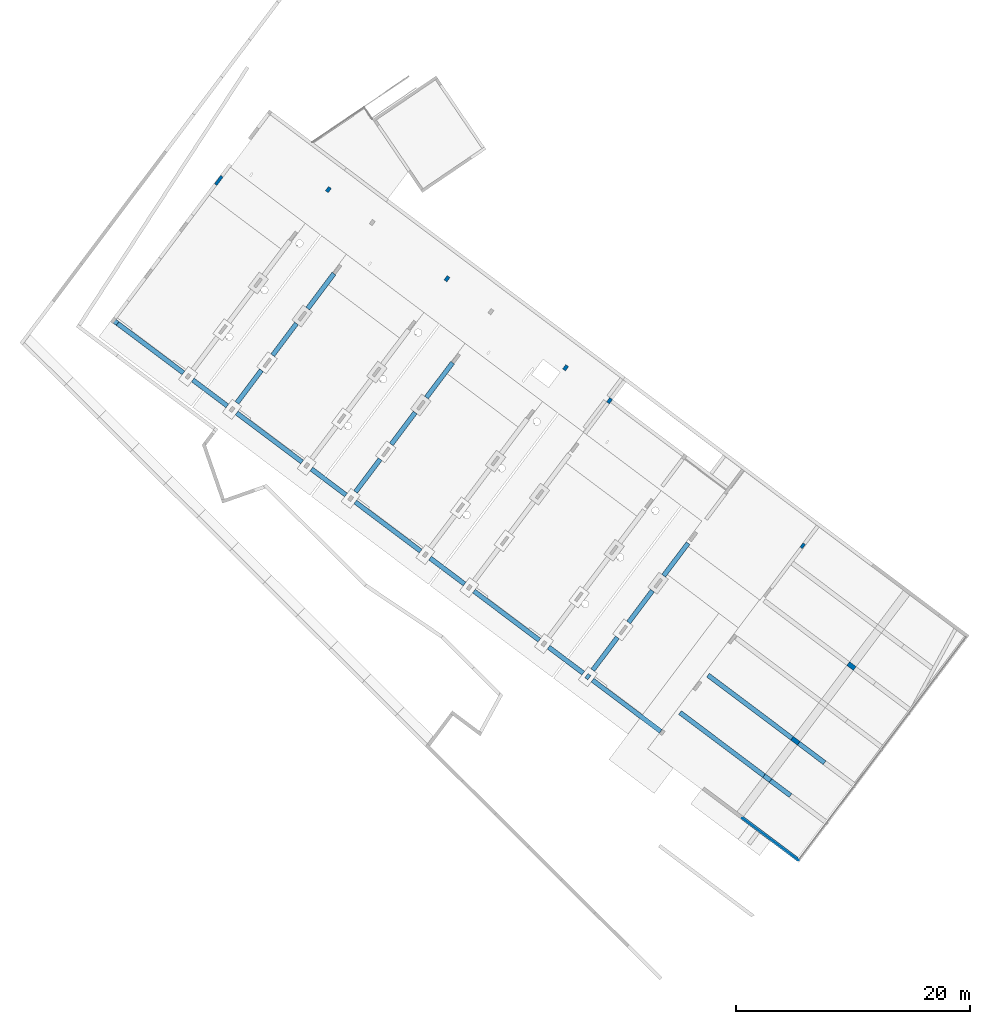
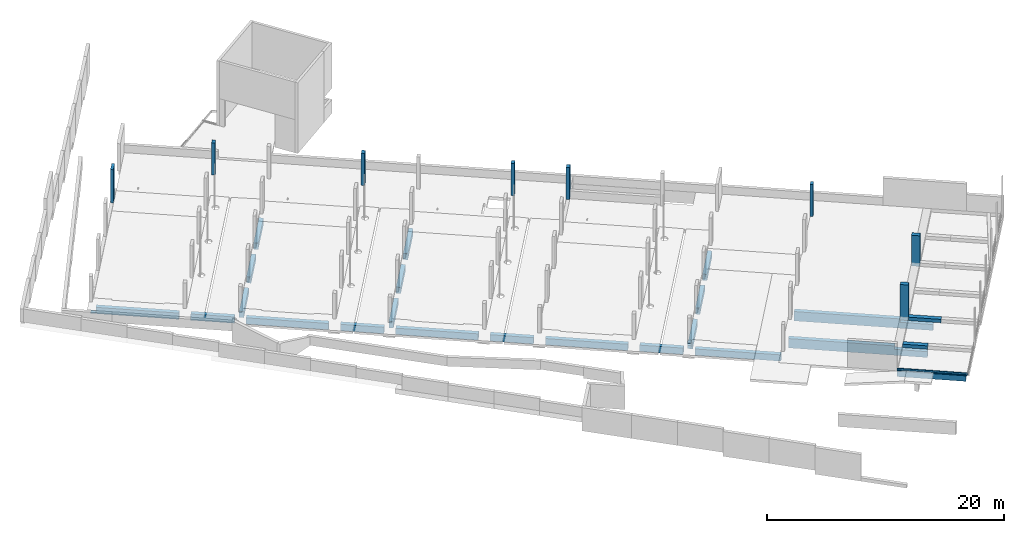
# One storey, part 17 of 24: 9 beams, 9 columns.
"""IFC2X3 building model written with IfcOpenShell, lengths in metres."""

import ifcopenshell
import ifcopenshell.guid

model = None  # the IFC model being written
_history = None  # IfcOwnerHistory: only IFC2X3 demands one
_inside = {}  # id of a spatial element -> (the spatial element, [elements in it])
_under = {}  # id of a project, library or spatial element -> (it, [spatial elements below it])
_declared = {}  # id of a project -> (the project, [libraries it declares])
_typed = {}  # id of a type object -> (the type object, [elements of that type])
_made_of = {}  # id of a material, layer set ... -> (it, [elements and type objects made of it])


def new_model(schema):
    """Start an empty IFC model of exactly this schema.

    Asked for "IFC4X3", IfcOpenShell would pick the latest addendum, in which some entities
    have other attributes; the version numbers below select the first issue.
    IFC2X3 requires an IfcOwnerHistory on every rooted entity: one is made here for all.
    """
    global model, _history
    if schema == "IFC4X3":
        model = ifcopenshell.file(schema_version=(4, 3, 0, 0))
    else:
        model = ifcopenshell.file(schema=schema)
    _inside.clear()
    _under.clear()
    _declared.clear()
    _typed.clear()
    _made_of.clear()
    _history = None
    if model.schema == "IFC2X3":
        org = make("IfcOrganization", Name="unknown")
        user = make(
            "IfcPersonAndOrganization",
            ThePerson=make("IfcPerson", FamilyName="unknown"),
            TheOrganization=org,
        )
        app = make(
            "IfcApplication",
            ApplicationDeveloper=org,
            Version="unknown",
            ApplicationFullName="unknown",
            ApplicationIdentifier="unknown",
        )
        _history = make(
            "IfcOwnerHistory",
            OwningUser=user,
            OwningApplication=app,
            ChangeAction="ADDED",
            CreationDate=0,
        )
    return model


def make(cls, **values):
    """One entity of the class cls with the attributes given. An attribute that is None is left unset."""
    return model.create_entity(
        cls, **{name: value for name, value in values.items() if value is not None}
    )


def entity(cls, *values):
    """Any entity or typed value of the class cls, its attributes in the order of the schema. None: left unset."""
    e = model.create_entity(cls)
    for i, value in enumerate(values):
        if value is not None:
            e[i] = value
    return e


def rooted(cls, **values):
    """An entity with a GlobalId (a new one), such as an element, a storey or a relation."""
    return make(cls, GlobalId=ifcopenshell.guid.new(), OwnerHistory=_history, **values)


def si_unit(unit_type, name, prefix=None):
    """IfcSIUnit, for example si_unit("LENGTHUNIT", "METRE", prefix="MILLI")."""
    return make("IfcSIUnit", UnitType=unit_type, Prefix=prefix, Name=name)


def converted_unit(unit_type, name, factor, base, dimensions=None, offset=None):
    """IfcConversionBasedUnit, such as the inch: factor (a typed value) times the base unit."""
    return make(
        "IfcConversionBasedUnit"
        if offset is None
        else "IfcConversionBasedUnitWithOffset",
        ConversionOffset=offset,
        Dimensions=None
        if dimensions is None
        else entity("IfcDimensionalExponents", *dimensions),
        UnitType=unit_type,
        Name=name,
        ConversionFactor=make(
            "IfcMeasureWithUnit", ValueComponent=factor, UnitComponent=base
        ),
    )


def derived_unit(unit_type, elements):
    """IfcDerivedUnit: a product of units, each with its exponent."""
    return make(
        "IfcDerivedUnit",
        Elements=[
            make("IfcDerivedUnitElement", Unit=unit, Exponent=power)
            for unit, power in elements
        ],
        UnitType=unit_type,
    )


def assignment(units):
    """IfcUnitAssignment: the units of a project."""
    return None if units is None else make("IfcUnitAssignment", Units=units)


def point(xyz):
    """IfcCartesianPoint."""
    return None if xyz is None else make("IfcCartesianPoint", Coordinates=xyz)


def direction(xyz):
    """IfcDirection."""
    return None if xyz is None else make("IfcDirection", DirectionRatios=xyz)


def frame(location, z_axis=None, x_axis=None):
    """IfcAxis2Placement3D, a coordinate frame: its origin and axes. An axis left out is left unset."""
    return make(
        "IfcAxis2Placement3D",
        Location=point(location),
        Axis=direction(z_axis),
        RefDirection=direction(x_axis),
    )


def frame_2d(location, x_axis=None):
    """IfcAxis2Placement2D, a coordinate frame in the plane: its origin and x axis."""
    return make(
        "IfcAxis2Placement2D", Location=point(location), RefDirection=direction(x_axis)
    )


def origin():
    """The frame at (0, 0, 0) with its axes left unset."""
    return frame((0.0, 0.0, 0.0))


def origin_2d_with_axis():
    """The frame at (0, 0) in the plane with the x axis (1, 0) written out."""
    return frame_2d((0.0, 0.0), x_axis=(1.0, 0.0))


def place(relative_to, where):
    """IfcLocalPlacement: puts the frame where relative to a parent placement (None: the world)."""
    return make(
        "IfcLocalPlacement", PlacementRelTo=relative_to, RelativePlacement=where
    )


def context(
    kind, dimensions, precision=None, world=None, true_north=None, identifier=None
):
    """IfcGeometricRepresentationContext, for example the 3D "Model" context."""
    return make(
        "IfcGeometricRepresentationContext",
        ContextIdentifier=identifier,
        ContextType=kind,
        CoordinateSpaceDimension=dimensions,
        Precision=precision,
        WorldCoordinateSystem=world,
        TrueNorth=true_north,
    )


def subcontext(parent, identifier, kind, view, scale=None):
    """IfcGeometricRepresentationSubContext, for example "Body" below "Model"."""
    return make(
        "IfcGeometricRepresentationSubContext",
        ContextIdentifier=identifier,
        ContextType=kind,
        ParentContext=parent,
        TargetScale=scale,
        TargetView=view,
    )


def project(units=None, contexts=None):
    """IfcProject with its units and contexts."""
    return rooted(
        "IfcProject",
        Name="project",
        RepresentationContexts=contexts,
        UnitsInContext=assignment(units),
    )


def spatial(cls, under=None, at=None, **own):
    """A site, building, storey or space (cls), placed at a placement, below another one or the project."""
    s = rooted(cls, ObjectPlacement=at, **own)
    if under is not None:
        _under.setdefault(under.id(), (under, []))[1].append(s)
    return s


def polyline(points):
    """IfcPolyline through the points."""
    return make("IfcPolyline", Points=[point(p) for p in points])


def profile(cls, at=None, kind="AREA", **sizes):
    """A parametric profile (cls). Its sizes go by their IFC names, for example OverallWidth=200.0."""
    return make(cls, ProfileType=kind, Position=at, **sizes)


def rectangle(**sizes):
    """IfcRectangleProfileDef."""
    return profile("IfcRectangleProfileDef", **sizes)


def outline(outer, holes=None, kind="AREA"):
    """IfcArbitraryClosedProfileDef: a profile drawn as a closed curve; with holes, ...WithVoids."""
    if holes is None:
        return make("IfcArbitraryClosedProfileDef", ProfileType=kind, OuterCurve=outer)
    return make(
        "IfcArbitraryProfileDefWithVoids",
        ProfileType=kind,
        OuterCurve=outer,
        InnerCurves=holes,
    )


def extrude(swept, where, along, depth):
    """IfcExtrudedAreaSolid: the profile swept, set in the frame where, extruded along a direction by depth."""
    return make(
        "IfcExtrudedAreaSolid",
        SweptArea=swept,
        Position=where,
        ExtrudedDirection=direction(along),
        Depth=depth,
    )


def clip(a, b, op="DIFFERENCE"):
    """IfcBooleanClippingResult: the solid a cut by the half space b."""
    return make(
        "IfcBooleanClippingResult", Operator=op, FirstOperand=a, SecondOperand=b
    )


def halfspace(plane, agree):
    """IfcHalfSpaceSolid: all space on one side of the plane z = 0 of the frame plane."""
    return make(
        "IfcHalfSpaceSolid",
        BaseSurface=make("IfcPlane", Position=plane),
        AgreementFlag=agree,
    )


def shape(context_of_items, identifier, shape_type, items):
    """IfcShapeRepresentation: the items that make up one representation, for example the "Body"."""
    return make(
        "IfcShapeRepresentation",
        ContextOfItems=context_of_items,
        RepresentationIdentifier=identifier,
        RepresentationType=shape_type,
        Items=items,
    )


def source(mapping_origin, context_of_items, identifier, shape_type, items):
    """IfcRepresentationMap: a shape defined once, which mapped items show again and again."""
    return make(
        "IfcRepresentationMap",
        MappingOrigin=mapping_origin,
        MappedRepresentation=shape(context_of_items, identifier, shape_type, items),
    )


def transform(
    local_origin,
    x_axis=None,
    y_axis=None,
    z_axis=None,
    scale=None,
    scale2=None,
    scale3=None,
    uniform=True,
):
    """IfcCartesianTransformationOperator3D, or its non-uniform kind. x_axis, y_axis, z_axis: its Axis1, 2, 3."""
    if uniform:
        return make(
            "IfcCartesianTransformationOperator3D",
            Axis1=direction(x_axis),
            Axis2=direction(y_axis),
            LocalOrigin=point(local_origin),
            Scale=scale,
            Axis3=direction(z_axis),
        )
    return make(
        "IfcCartesianTransformationOperator3DnonUniform",
        Axis1=direction(x_axis),
        Axis2=direction(y_axis),
        LocalOrigin=point(local_origin),
        Scale=scale,
        Axis3=direction(z_axis),
        Scale2=scale2,
        Scale3=scale3,
    )


def mapped(mapping_source, mapping_target):
    """IfcMappedItem: shows the shape of a source again, moved by a transform."""
    return make(
        "IfcMappedItem", MappingSource=mapping_source, MappingTarget=mapping_target
    )


def material(Name=None, Category=None):
    """IfcMaterial."""
    return make("IfcMaterial", Name=Name, Category=Category)


def material_list(materials):
    """IfcMaterialList."""
    return make("IfcMaterialList", Materials=materials)


def made_of(thing, what):
    """Note that an element or type object is made of a material, layer set ...; save() writes the relation."""
    if what is not None:
        _made_of.setdefault(what.id(), (what, []))[1].append(thing)
    return thing


def type_object(cls, material=None, **own):
    """A type object (cls), such as IfcWallType, which elements share."""
    return made_of(rooted(cls, **own), material)


def type_shapes(of_type, sources):
    """Give a type object the sources (RepresentationMaps) that its elements show as mapped items."""
    of_type.RepresentationMaps = sources


def element(
    cls,
    number,
    at=None,
    inside=None,
    cuts=None,
    type_object=None,
    material=None,
    context=None,
    identifier="Body",
    shape_type=None,
    held_by="IfcProductDefinitionShape",
    body=None,
    shapes=None,
    **own,
):
    """One element of the class cls, such as IfcWall. Its Tag is "e" and its number.

    at: its placement. inside: the storey or other place that contains it. cuts: it is an
    opening in that element (IfcRelVoidsElement). A single representation is given by context,
    identifier, shape_type and body (its items); several are given by shapes. held_by: the class
    of the entity that holds the representations. save() writes the other relations.
    """
    e = rooted(cls, Tag="e%d" % number, ObjectPlacement=at, **own)
    if body is not None:
        shapes = [shape(context, identifier, shape_type, body)]
    if shapes is not None:
        e.Representation = make(held_by, Representations=shapes)
    if inside is not None:
        _inside.setdefault(inside.id(), (inside, []))[1].append(e)
    if cuts is not None:
        rooted(
            "IfcRelVoidsElement", RelatingBuildingElement=cuts, RelatedOpeningElement=e
        )
    if type_object is not None:
        _typed.setdefault(type_object.id(), (type_object, []))[1].append(e)
    return made_of(e, material)


def aggregate(whole, parts):
    """IfcRelAggregates: a whole, such as a stair, and the parts it consists of."""
    return rooted("IfcRelAggregates", RelatingObject=whole, RelatedObjects=parts)


def save(model, path):
    """Write the relations noted so far, then the file.

    IfcRelAggregates (storeys below a building ...), IfcRelContainedInSpatialStructure (elements
    in a storey), IfcRelDefinesByType, IfcRelAssociatesMaterial and IfcRelDeclares: one each for
    every whole, place, type object, material and project.
    """
    for whole, parts in _under.values():
        aggregate(whole, parts)
    for where, things in _inside.values():
        rooted(
            "IfcRelContainedInSpatialStructure",
            RelatedElements=things,
            RelatingStructure=where,
        )
    for kind, things in _typed.values():
        rooted("IfcRelDefinesByType", RelatedObjects=things, RelatingType=kind)
    for what, things in _made_of.values():
        rooted("IfcRelAssociatesMaterial", RelatedObjects=things, RelatingMaterial=what)
    for by, libraries in _declared.values():
        rooted("IfcRelDeclares", RelatingContext=by, RelatedDefinitions=libraries)
    model.write(path)


model = new_model("IFC2X3")

# Units and contexts
model_context = context("Model", 3, precision=1e-05, world=origin(), true_north=direction((6.123031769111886e-17, 1.0)))
body_context = subcontext(model_context, "Body", "Model", "MODEL_VIEW")
ifc_project = project(units=[si_unit("LENGTHUNIT", "METRE"), si_unit("AREAUNIT", "SQUARE_METRE"), si_unit("VOLUMEUNIT", "CUBIC_METRE"), converted_unit("PLANEANGLEUNIT", "DEGREE", entity("IfcRatioMeasure", 0.017453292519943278), si_unit("PLANEANGLEUNIT", "RADIAN"), dimensions=[0, 0, 0, 0, 0, 0, 0]), si_unit("MASSUNIT", "GRAM", prefix="KILO"), derived_unit("MASSDENSITYUNIT", [(si_unit("MASSUNIT", "GRAM", prefix="KILO"), 1), (si_unit("LENGTHUNIT", "METRE"), -3)]), derived_unit("IONCONCENTRATIONUNIT", [(si_unit("MASSUNIT", "GRAM", prefix="KILO"), 1), (si_unit("LENGTHUNIT", "METRE"), -3)]), derived_unit("MOMENTOFINERTIAUNIT", [(si_unit("LENGTHUNIT", "METRE"), 4)]), si_unit("TIMEUNIT", "SECOND"), si_unit("FREQUENCYUNIT", "HERTZ"), si_unit("THERMODYNAMICTEMPERATUREUNIT", "DEGREE_CELSIUS"), derived_unit("THERMALTRANSMITTANCEUNIT", [(si_unit("MASSUNIT", "GRAM", prefix="KILO"), 1), (si_unit("THERMODYNAMICTEMPERATUREUNIT", "KELVIN"), -1), (si_unit("TIMEUNIT", "SECOND"), -3)]), derived_unit("THERMALCONDUCTANCEUNIT", [(si_unit("MASSUNIT", "GRAM", prefix="KILO"), 1), (si_unit("THERMODYNAMICTEMPERATUREUNIT", "KELVIN"), -1), (si_unit("TIMEUNIT", "SECOND"), -3), (si_unit("LENGTHUNIT", "METRE"), 1)]), derived_unit("VOLUMETRICFLOWRATEUNIT", [(si_unit("LENGTHUNIT", "METRE"), 3), (si_unit("TIMEUNIT", "SECOND"), -1)]), derived_unit("MASSFLOWRATEUNIT", [(si_unit("MASSUNIT", "GRAM", prefix="KILO"), 1), (si_unit("TIMEUNIT", "SECOND"), -1)]), derived_unit("ROTATIONALFREQUENCYUNIT", [(si_unit("TIMEUNIT", "SECOND"), -1)]), si_unit("ELECTRICCURRENTUNIT", "AMPERE"), si_unit("ELECTRICVOLTAGEUNIT", "VOLT"), si_unit("POWERUNIT", "WATT"), si_unit("FORCEUNIT", "NEWTON", prefix="KILO"), si_unit("ILLUMINANCEUNIT", "LUX"), si_unit("LUMINOUSFLUXUNIT", "LUMEN"), si_unit("LUMINOUSINTENSITYUNIT", "CANDELA"), derived_unit("USERDEFINED", [(si_unit("MASSUNIT", "GRAM", prefix="KILO"), -1), (si_unit("LENGTHUNIT", "METRE"), -2), (si_unit("TIMEUNIT", "SECOND"), 3), (si_unit("LUMINOUSFLUXUNIT", "LUMEN"), 1)]), derived_unit("USERDEFINED", [(si_unit("MASSUNIT", "GRAM", prefix="KILO"), 1), (si_unit("TIMEUNIT", "SECOND"), -3), (si_unit("LENGTHUNIT", "METRE"), 3), (si_unit("ELECTRICCURRENTUNIT", "AMPERE"), -2)]), derived_unit("SOUNDPOWERUNIT", [(si_unit("MASSUNIT", "GRAM", prefix="KILO"), 1), (si_unit("TIMEUNIT", "SECOND"), -3), (si_unit("LENGTHUNIT", "METRE"), 2)]), derived_unit("SOUNDPRESSUREUNIT", [(si_unit("MASSUNIT", "GRAM", prefix="KILO"), 1), (si_unit("LENGTHUNIT", "METRE"), -1), (si_unit("TIMEUNIT", "SECOND"), -2)]), derived_unit("LINEARVELOCITYUNIT", [(si_unit("LENGTHUNIT", "METRE"), 1), (si_unit("TIMEUNIT", "SECOND"), -1)]), si_unit("PRESSUREUNIT", "PASCAL"), derived_unit("USERDEFINED", [(si_unit("MASSUNIT", "GRAM", prefix="KILO"), 1), (si_unit("LENGTHUNIT", "METRE"), -2), (si_unit("TIMEUNIT", "SECOND"), -2)]), derived_unit("LINEARFORCEUNIT", [(si_unit("MASSUNIT", "GRAM", prefix="KILO"), 1), (si_unit("TIMEUNIT", "SECOND"), -2)]), derived_unit("PLANARFORCEUNIT", [(si_unit("MASSUNIT", "GRAM", prefix="KILO"), 1), (si_unit("LENGTHUNIT", "METRE"), -1), (si_unit("TIMEUNIT", "SECOND"), -2)]), derived_unit("SPECIFICHEATCAPACITYUNIT", [(si_unit("THERMODYNAMICTEMPERATUREUNIT", "KELVIN"), -1), (si_unit("LENGTHUNIT", "METRE"), 2), (si_unit("TIMEUNIT", "SECOND"), -2)]), derived_unit("HEATINGVALUEUNIT", [(si_unit("LENGTHUNIT", "METRE"), 2), (si_unit("TIMEUNIT", "SECOND"), -2)]), derived_unit("VAPORPERMEABILITYUNIT", [(si_unit("LENGTHUNIT", "METRE"), -1), (si_unit("TIMEUNIT", "SECOND"), 1)]), derived_unit("DYNAMICVISCOSITYUNIT", [(si_unit("MASSUNIT", "GRAM", prefix="KILO"), 1), (si_unit("TIMEUNIT", "SECOND"), -1), (si_unit("LENGTHUNIT", "METRE"), -1)]), derived_unit("THERMALEXPANSIONCOEFFICIENTUNIT", [(si_unit("THERMODYNAMICTEMPERATUREUNIT", "KELVIN"), -1)]), derived_unit("MODULUSOFELASTICITYUNIT", [(si_unit("MASSUNIT", "GRAM", prefix="KILO"), 1), (si_unit("LENGTHUNIT", "METRE"), -1), (si_unit("TIMEUNIT", "SECOND"), -2)]), derived_unit("ISOTHERMALMOISTURECAPACITYUNIT", [(si_unit("LENGTHUNIT", "METRE"), 3), (si_unit("MASSUNIT", "GRAM", prefix="KILO"), -1)]), derived_unit("MOISTUREDIFFUSIVITYUNIT", [(si_unit("TIMEUNIT", "SECOND"), -1), (si_unit("LENGTHUNIT", "METRE"), 2)])], contexts=[model_context])

# Site, building, storey
site_placement = place(None, origin())
site = spatial("IfcSite", under=ifc_project, at=site_placement, Name="Default", CompositionType="ELEMENT")
building_placement = place(site_placement, frame((0.0, 0.0, 235.0), z_axis=(0.0, 0.0, 1.0), x_axis=(-0.7996477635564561, 0.6004693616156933, 0.0)))
building = spatial("IfcBuilding", under=site, at=building_placement, CompositionType="ELEMENT")
storey_placement = place(building_placement, origin())
storey = spatial("IfcBuildingStorey", under=building, at=storey_placement, Name="P0- Escola", CompositionType="ELEMENT", Elevation=0.0)

# Columns
ifc_material_1 = material(Name="_Formigó- T1- STR")
column_type_1 = type_object("IfcColumnType", Name="STR- P- Formigó- Rectangular- T1:30x45cm", PredefinedType="COLUMN", material=ifc_material_1)
shared_shape_1 = source(origin(), body_context, "Body", "SweptSolid", [
    clip(extrude(rectangle(XDim=0.450000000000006, YDim=0.3000000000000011, at=origin_2d_with_axis()), frame((23.795147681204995, -19.915191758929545, -0.57), z_axis=(0.0, 0.0, 1.0), x_axis=(0.0, -1.0, 0.0)), (0.0, 0.0, 1.0), 0.3500000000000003), halfspace(frame((21.55139768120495, -19.090191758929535, -0.245), z_axis=(0.0, 0.02380277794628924, 0.9997166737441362), x_axis=(-1.0, 0.0, 0.0)), False)),
    clip(extrude(rectangle(XDim=0.450000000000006, YDim=0.3000000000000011, at=origin_2d_with_axis()), frame((23.795147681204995, -19.915191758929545, -0.030714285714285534), z_axis=(0.0, 0.0, 1.0), x_axis=(0.0, -1.0, 0.0)), (0.0, 0.0, 1.0), 0.030714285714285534), halfspace(frame((21.55139768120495, -19.090191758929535, -0.045), z_axis=(0.0, -0.02380277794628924, -0.9997166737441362), x_axis=(-1.0, 0.0, 0.0)), False)),
])
type_shapes(column_type_1, [shared_shape_1])
column_1_placement = place(storey_placement, origin())
element("IfcColumn", 1, at=column_1_placement, inside=storey, type_object=column_type_1, material=ifc_material_1, Name="STR- P- Formigó- Rectangular- T1:30x45cm", ObjectType="STR- P- Formigó- Rectangular- T1:30x45cm", context=body_context, shape_type="MappedRepresentation", body=[
    mapped(shared_shape_1, transform((0.0, 0.0, 0.0), scale=1.0)),
])
column_type_2 = type_object("IfcColumnType", Name="STR- P- Formigó- Rectangular- T1:30x45cm", PredefinedType="COLUMN", material=ifc_material_1)
shared_shape_2 = source(origin(), body_context, "Body", "SweptSolid", [
    extrude(rectangle(XDim=0.4500000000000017, YDim=0.3000000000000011, at=origin_2d_with_axis()), frame((66.59514768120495, -39.91519175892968, -0.2), z_axis=(0.0, 0.0, 1.0), x_axis=(0.0, -1.0, 0.0)), (0.0, 0.0, 1.0), 3.3000000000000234),
])
type_shapes(column_type_2, [shared_shape_2])
column_2_placement = place(storey_placement, origin())
element("IfcColumn", 2, at=column_2_placement, inside=storey, type_object=column_type_2, material=ifc_material_1, Name="STR- P- Formigó- Rectangular- T1:30x45cm", ObjectType="STR- P- Formigó- Rectangular- T1:30x45cm", context=body_context, shape_type="MappedRepresentation", body=[
    mapped(shared_shape_2, transform((0.0, 0.0, 0.0), scale=1.0)),
])
column_type_3 = type_object("IfcColumnType", Name="STR- P- Formigó- Rectangular- T1:30x45cm", PredefinedType="COLUMN", material=ifc_material_1)
shared_shape_3 = source(origin(), body_context, "Body", "SweptSolid", [
    extrude(rectangle(XDim=0.4500000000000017, YDim=0.3000000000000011, at=origin_2d_with_axis()), frame((53.895147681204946, -39.91519175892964, -0.2), z_axis=(0.0, 0.0, 1.0), x_axis=(0.0, -1.0, 0.0)), (0.0, 0.0, 1.0), 3.3000000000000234),
])
type_shapes(column_type_3, [shared_shape_3])
column_3_placement = place(storey_placement, origin())
element("IfcColumn", 3, at=column_3_placement, inside=storey, type_object=column_type_3, material=ifc_material_1, Name="STR- P- Formigó- Rectangular- T1:30x45cm", ObjectType="STR- P- Formigó- Rectangular- T1:30x45cm", context=body_context, shape_type="MappedRepresentation", body=[
    mapped(shared_shape_3, transform((0.0, 0.0, 0.0), scale=1.0)),
])
column_type_4 = type_object("IfcColumnType", Name="STR- P- Formigó- Rectangular- T1:30x45cm", PredefinedType="COLUMN", material=ifc_material_1)
shared_shape_4 = source(origin(), body_context, "Body", "SweptSolid", [
    extrude(rectangle(XDim=0.4500000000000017, YDim=0.3000000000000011, at=origin_2d_with_axis()), frame((41.19514768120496, -39.915191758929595, -0.2), z_axis=(0.0, 0.0, 1.0), x_axis=(0.0, -1.0, 0.0)), (0.0, 0.0, 1.0), 3.3000000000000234),
])
type_shapes(column_type_4, [shared_shape_4])
column_4_placement = place(storey_placement, origin())
element("IfcColumn", 4, at=column_4_placement, inside=storey, type_object=column_type_4, material=ifc_material_1, Name="STR- P- Formigó- Rectangular- T1:30x45cm", ObjectType="STR- P- Formigó- Rectangular- T1:30x45cm", context=body_context, shape_type="MappedRepresentation", body=[
    mapped(shared_shape_4, transform((0.0, 0.0, 0.0), scale=1.0)),
])
column_type_5 = type_object("IfcColumnType", Name="STR- P- Formigó- Rectangular- T1:30x45cm", PredefinedType="COLUMN", material=ifc_material_1)
shared_shape_5 = source(origin(), body_context, "Body", "SweptSolid", [
    extrude(rectangle(XDim=0.4500000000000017, YDim=0.3000000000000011, at=origin_2d_with_axis()), frame((36.49514768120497, -39.91519175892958, -0.2), z_axis=(0.0, 0.0, 1.0), x_axis=(0.0, -1.0, 0.0)), (0.0, 0.0, 1.0), 3.3000000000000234),
])
type_shapes(column_type_5, [shared_shape_5])
column_5_placement = place(storey_placement, origin())
element("IfcColumn", 5, at=column_5_placement, inside=storey, type_object=column_type_5, material=ifc_material_1, Name="STR- P- Formigó- Rectangular- T1:30x45cm", ObjectType="STR- P- Formigó- Rectangular- T1:30x45cm", context=body_context, shape_type="MappedRepresentation", body=[
    mapped(shared_shape_5, transform((0.0, 0.0, 0.0), scale=1.0)),
])
column_type_6 = type_object("IfcColumnType", Name="STR- P- Formigó- Rectangular- T1:40x70cm", PredefinedType="COLUMN", material=ifc_material_1)
shared_shape_6 = source(origin(), body_context, "Body", "SweptSolid", [
    extrude(rectangle(XDim=0.4, YDim=0.7000000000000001, at=frame_2d((2.1649348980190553e-15, 0.0), x_axis=(1.0, 0.0))), frame((6.295147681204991, -26.190191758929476, -0.55), z_axis=(0.0, 0.0, 1.0), x_axis=(0.0, -1.0, 0.0)), (0.0, 0.0, 1.0), 3.6500000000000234),
])
type_shapes(column_type_6, [shared_shape_6])
column_6_placement = place(storey_placement, origin())
element("IfcColumn", 6, at=column_6_placement, inside=storey, type_object=column_type_6, material=ifc_material_1, Name="STR- P- Formigó- Rectangular- T1:40x70cm", ObjectType="STR- P- Formigó- Rectangular- T1:40x70cm", context=body_context, shape_type="MappedRepresentation", body=[
    mapped(shared_shape_6, transform((0.0, 0.0, 0.0), scale=1.0)),
])
column_type_7 = type_object("IfcColumnType", Name="STR- P- Formigó- Rectangular- T1:40x70cm", PredefinedType="COLUMN", material=ifc_material_1)
shared_shape_7 = source(origin(), body_context, "Body", "SweptSolid", [
    extrude(rectangle(XDim=0.4, YDim=0.7000000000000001, at=origin_2d_with_axis()), frame((6.295147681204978, -34.19019175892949, -0.55), z_axis=(0.0, 0.0, 1.0), x_axis=(0.0, -1.0, 0.0)), (0.0, 0.0, 1.0), 3.1500000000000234),
])
type_shapes(column_type_7, [shared_shape_7])
column_7_placement = place(storey_placement, origin())
element("IfcColumn", 7, at=column_7_placement, inside=storey, type_object=column_type_7, material=ifc_material_1, Name="STR- P- Formigó- Rectangular- T1:40x70cm", ObjectType="STR- P- Formigó- Rectangular- T1:40x70cm", context=body_context, shape_type="MappedRepresentation", body=[
    mapped(shared_shape_7, transform((0.0, 0.0, 0.0), scale=1.0)),
])
column_type_8 = type_object("IfcColumnType", Name="STR- P- Formigó- Rectangular- T1:25x90cm", PredefinedType="COLUMN", material=ifc_material_1)
shared_shape_8 = source(origin(), body_context, "Body", "SweptSolid", [
    extrude(rectangle(XDim=0.899999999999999, YDim=0.25000000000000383, at=frame_2d((0.0, 8.666678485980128e-15), x_axis=(1.0, 0.0))), frame((74.57014768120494, -34.915191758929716, -0.1), z_axis=(0.0, 0.0, 1.0), x_axis=(0.0, -1.0, 0.0)), (0.0, 0.0, 1.0), 3.4000000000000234),
])
type_shapes(column_type_8, [shared_shape_8])
column_8_placement = place(storey_placement, origin())
element("IfcColumn", 8, at=column_8_placement, inside=storey, type_object=column_type_8, material=ifc_material_1, Name="STR- P- Formigó- Rectangular- T1:25x90cm", ObjectType="STR- P- Formigó- Rectangular- T1:25x90cm", context=body_context, shape_type="MappedRepresentation", body=[
    mapped(shared_shape_8, transform((0.0, 0.0, 0.0), scale=1.0)),
])
column_type_9 = type_object("IfcColumnType", Name="STR- P- Formigó- Rectangular- T1:25x45cm", PredefinedType="COLUMN", material=ifc_material_1)
shared_shape_9 = source(origin(), body_context, "Body", "SweptSolid", [
    extrude(rectangle(XDim=0.4500000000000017, YDim=0.24999999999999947, at=origin_2d_with_axis()), frame((15.820147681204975, -39.91519175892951, -0.2), z_axis=(0.0, 0.0, 1.0), x_axis=(0.0, -1.0, 0.0)), (0.0, 0.0, 1.0), 3.3000000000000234),
])
type_shapes(column_type_9, [shared_shape_9])
column_9_placement = place(storey_placement, origin())
element("IfcColumn", 9, at=column_9_placement, inside=storey, type_object=column_type_9, material=ifc_material_1, Name="STR- P- Formigó- Rectangular- T1:25x45cm", ObjectType="STR- P- Formigó- Rectangular- T1:25x45cm", context=body_context, shape_type="MappedRepresentation", body=[
    mapped(shared_shape_9, transform((0.0, 0.0, 0.0), scale=1.0)),
])

# Beams
beam_type_1 = type_object("IfcBeamType", Name="STR- V- Formigó- Rectangular- T1:30x59 cm", PredefinedType="NOTDEFINED")
beam_1_placement = place(storey_placement, frame((0.09583341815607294, -18.19019175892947, -0.2)))
element("IfcBeam", 10, at=beam_1_placement, inside=storey, type_object=beam_type_1, material=ifc_material_1, Name="STR- V- Formigó- Rectangular- T1:30x59 cm", ObjectType="STR- V- Formigó- Rectangular- T1:30x59 cm", context=body_context, shape_type="SweptSolid", body=[
    extrude(rectangle(XDim=0.5899999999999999, YDim=0.30000000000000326, at=frame_2d((5.551115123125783e-17, 2.1649348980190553e-14), x_axis=(1.0, 0.0))), frame((0.010000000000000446, 0.0, -0.29500000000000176), z_axis=(1.0, 0.0, 0.0), x_axis=(0.0, 0.0, -1.0)), (0.0, 0.0, 1.0), 5.839314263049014),
])
beam_type_2 = type_object("IfcBeamType", Name="STR- V- Formigó- Rectangular- T1:40x120 cm", PredefinedType="BEAM", material=ifc_material_1)
shared_shape_10 = source(origin(), body_context, "Body", "SweptSolid", [
    extrude(outline(polyline([(-0.5750000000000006, -4.262499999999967), (0.0350000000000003, -4.262499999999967), (0.0350000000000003, -2.1624999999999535), (0.0350000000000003, -1.4625000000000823), (0.2750000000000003, -1.4625000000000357), (0.38500000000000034, -1.4625000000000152), (0.38500000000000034, 7.537500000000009), (-0.5750000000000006, 7.537500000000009), (-0.5750000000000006, -4.262499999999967)])), frame((4.942899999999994, 0.0, 0.5750000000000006), z_axis=(0.0, 1.0, 0.0), x_axis=(0.0, 0.0, 1.0)), (0.0, 0.0, 1.0), 0.40000000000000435),
    extrude(rectangle(XDim=0.34999999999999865, YDim=0.4, at=frame_2d((0.0, -2.1649348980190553e-15), x_axis=(1.0, 0.0))), frame((0.0, 0.20000000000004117, 1.0250000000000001), z_axis=(1.0, 0.0, 0.0), x_axis=(0.0, 0.0, -1.0)), (0.0, 0.0, 1.0), 2.7804000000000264),
])
type_shapes(beam_type_2, [shared_shape_10])
beam_2_placement = place(storey_placement, frame((3.1647476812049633, -26.390191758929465, -1.400000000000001)))
element("IfcBeam", 11, at=beam_2_placement, inside=storey, type_object=beam_type_2, material=ifc_material_1, Name="STR- V- Formigó- Rectangular- T1:40x120 cm", ObjectType="STR- V- Formigó- Rectangular- T1:40x120 cm", context=body_context, shape_type="MappedRepresentation", body=[
    mapped(shared_shape_10, transform((0.0, 0.0, 0.0), scale=1.0)),
])
beam_type_3 = type_object("IfcBeamType", Name="STR- V- Formigó- Rectangular- T1:40x120 cm", PredefinedType="BEAM", material=ifc_material_1)
shared_shape_11 = source(origin(), body_context, "Body", "SweptSolid", [
    extrude(outline(polyline([(0.07428571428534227, -1.671428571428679), (0.4242857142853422, -1.671428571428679), (0.42428571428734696, 7.328571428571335), (-0.5357142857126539, 7.328571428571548), (-0.5357142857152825, -4.471428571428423), (0.07428571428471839, -4.471428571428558), (0.0742857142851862, -2.37142857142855), (0.07428571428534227, -1.671428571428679)])), frame((4.496828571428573, 0.0, 0.5357142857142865), z_axis=(0.0, 1.0, 0.0), x_axis=(0.0, 0.0, 1.0)), (0.0, 0.0, 1.0), 0.40000000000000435),
    extrude(rectangle(XDim=0.34999999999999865, YDim=0.4, at=frame_2d((0.0, -2.1649348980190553e-15), x_axis=(1.0, 0.0))), frame((0.0, 0.20000000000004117, 1.0250000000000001), z_axis=(1.0, 0.0, 0.0), x_axis=(0.0, 0.0, -1.0)), (0.0, 0.0, 1.0), 2.1254000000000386),
])
type_shapes(beam_type_3, [shared_shape_11])
beam_3_placement = place(storey_placement, frame((3.8197476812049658, -22.39019175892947, -1.400000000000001)))
element("IfcBeam", 12, at=beam_3_placement, inside=storey, type_object=beam_type_3, material=ifc_material_1, Name="STR- V- Formigó- Rectangular- T1:40x120 cm", ObjectType="STR- V- Formigó- Rectangular- T1:40x120 cm", context=body_context, shape_type="MappedRepresentation", body=[
    mapped(shared_shape_11, transform((0.0, 0.0, 0.0), scale=1.0)),
])
beam_type_4 = type_object("IfcBeamType", Name="STR- R- Formigó- Rectangular- T1:40x60 cm", PredefinedType="BEAM", material=ifc_material_1)
shared_shape_12 = source(origin(), body_context, "Body", "SweptSolid", [
    extrude(rectangle(XDim=0.6000000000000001, YDim=0.40000000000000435, at=frame_2d((-5.551115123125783e-17, 2.3814283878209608e-14), x_axis=(1.0, 0.0))), frame((23.295147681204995, -19.915191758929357, -0.8700000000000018), z_axis=(-1.0, 0.0, 0.0), x_axis=(0.0, 0.0, -1.0)), (0.0, 0.0, 1.0), 7.300000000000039),
    extrude(rectangle(XDim=0.5999999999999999, YDim=0.40000000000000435, at=frame_2d((-2.7755575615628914e-17, 1.2989609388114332e-14), x_axis=(1.0, 0.0))), frame((27.995147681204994, -19.915191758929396, -0.8700000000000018), z_axis=(-1.0, 0.0, 0.0), x_axis=(0.0, 0.0, -1.0)), (0.0, 0.0, 1.0), 3.6999999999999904),
    extrude(rectangle(XDim=0.5999999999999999, YDim=0.40000000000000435, at=frame_2d((-5.551115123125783e-17, 2.1649348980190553e-14), x_axis=(1.0, 0.0))), frame((35.99514768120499, -19.91519175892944, -0.8700000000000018), z_axis=(-1.0, 0.0, 0.0), x_axis=(0.0, 0.0, -1.0)), (0.0, 0.0, 1.0), 7.000000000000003),
    extrude(rectangle(XDim=0.5999999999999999, YDim=0.4, at=frame_2d((-5.551115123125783e-17, 1.2989609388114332e-14), x_axis=(1.0, 0.0))), frame((40.69514768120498, -19.91519175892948, -0.8700000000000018), z_axis=(-1.0, 0.0, 0.0), x_axis=(0.0, 0.0, -1.0)), (0.0, 0.0, 1.0), 3.6999999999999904),
    extrude(rectangle(XDim=0.6000000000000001, YDim=0.40000000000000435, at=frame_2d((-5.551115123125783e-17, 2.1649348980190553e-14), x_axis=(1.0, 0.0))), frame((48.69514768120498, -19.91519175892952, -0.8700000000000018), z_axis=(-1.0, 0.0, 0.0), x_axis=(0.0, 0.0, -1.0)), (0.0, 0.0, 1.0), 7.000000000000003),
    extrude(rectangle(XDim=0.6000000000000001, YDim=0.40000000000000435, at=frame_2d((-8.326672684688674e-17, 1.2989609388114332e-14), x_axis=(1.0, 0.0))), frame((53.39514768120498, -19.91519175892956, -0.8700000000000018), z_axis=(-1.0, 0.0, 0.0), x_axis=(0.0, 0.0, -1.0)), (0.0, 0.0, 1.0), 3.6999999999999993),
    extrude(rectangle(XDim=0.6000000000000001, YDim=0.40000000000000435, at=frame_2d((-5.551115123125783e-17, 2.1649348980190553e-14), x_axis=(1.0, 0.0))), frame((61.39514768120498, -19.915191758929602, -0.8700000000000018), z_axis=(-1.0, 0.0, 0.0), x_axis=(0.0, 0.0, -1.0)), (0.0, 0.0, 1.0), 7.000000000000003),
    extrude(rectangle(XDim=0.6000000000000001, YDim=0.40000000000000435, at=frame_2d((-8.326672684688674e-17, 1.2989609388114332e-14), x_axis=(1.0, 0.0))), frame((66.09514768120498, -19.915191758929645, -0.8700000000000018), z_axis=(-1.0, 0.0, 0.0), x_axis=(0.0, 0.0, -1.0)), (0.0, 0.0, 1.0), 3.6999999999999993),
    extrude(rectangle(XDim=0.6000000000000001, YDim=0.4000000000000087, at=frame_2d((-8.326672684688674e-17, 2.1649348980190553e-14), x_axis=(1.0, 0.0))), frame((74.14514768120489, -19.915191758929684, -0.8700000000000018), z_axis=(-1.0, 0.0, 0.0), x_axis=(0.0, 0.0, -1.0)), (0.0, 0.0, 1.0), 7.049999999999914),
    extrude(rectangle(XDim=0.04999999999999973, YDim=0.4, at=frame_2d((0.0, 2.3814283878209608e-14), x_axis=(1.0, 0.0))), frame((23.295147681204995, -19.91519175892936, -1.1950000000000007), z_axis=(-1.0, 0.0, 0.0), x_axis=(0.0, 0.0, -1.0)), (0.0, 0.0, 1.0), 7.300000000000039),
    extrude(rectangle(XDim=0.04999999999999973, YDim=0.4, at=frame_2d((0.0, 1.9484414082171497e-14), x_axis=(1.0, 0.0))), frame((74.60784768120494, -19.91519175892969, -1.1950000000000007), z_axis=(-1.0, 0.0, 0.0), x_axis=(0.0, 0.0, -1.0)), (0.0, 0.0, 1.0), 7.512699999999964),
    extrude(rectangle(XDim=0.04999999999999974, YDim=0.4, at=frame_2d((0.0, 1.0824674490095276e-14), x_axis=(1.0, 0.0))), frame((27.995147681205, -19.915191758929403, -1.1950000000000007), z_axis=(-1.0, 0.0, 0.0), x_axis=(0.0, 0.0, -1.0)), (0.0, 0.0, 1.0), 3.7000000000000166),
    extrude(rectangle(XDim=0.04999999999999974, YDim=0.4, at=frame_2d((0.0, 1.5154544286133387e-14), x_axis=(1.0, 0.0))), frame((40.69514768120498, -19.91519175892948, -1.1950000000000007), z_axis=(-1.0, 0.0, 0.0), x_axis=(0.0, 0.0, -1.0)), (0.0, 0.0, 1.0), 3.6999999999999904),
    extrude(rectangle(XDim=0.04999999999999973, YDim=0.4, at=frame_2d((0.0, 1.9484414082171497e-14), x_axis=(1.0, 0.0))), frame((35.995147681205, -19.915191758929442, -1.1950000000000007), z_axis=(-1.0, 0.0, 0.0), x_axis=(0.0, 0.0, -1.0)), (0.0, 0.0, 1.0), 7.000000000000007),
    extrude(rectangle(XDim=0.04999999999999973, YDim=0.4, at=frame_2d((0.0, 1.9484414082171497e-14), x_axis=(1.0, 0.0))), frame((48.69514768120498, -19.915191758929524, -1.1950000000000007), z_axis=(-1.0, 0.0, 0.0), x_axis=(0.0, 0.0, -1.0)), (0.0, 0.0, 1.0), 7.000000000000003),
    extrude(rectangle(XDim=0.04999999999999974, YDim=0.4, at=frame_2d((0.0, 1.0824674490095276e-14), x_axis=(1.0, 0.0))), frame((53.39514768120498, -19.915191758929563, -1.1950000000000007), z_axis=(-1.0, 0.0, 0.0), x_axis=(0.0, 0.0, -1.0)), (0.0, 0.0, 1.0), 3.6999999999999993),
    extrude(rectangle(XDim=0.04999999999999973, YDim=0.3999999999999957, at=frame_2d((0.0, 2.1649348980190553e-14), x_axis=(1.0, 0.0))), frame((61.39514768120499, -19.915191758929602, -1.1950000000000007), z_axis=(-1.0, 0.0, 0.0), x_axis=(0.0, 0.0, -1.0)), (0.0, 0.0, 1.0), 7.00000000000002),
    extrude(rectangle(XDim=0.04999999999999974, YDim=0.4, at=frame_2d((0.0, 1.0824674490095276e-14), x_axis=(1.0, 0.0))), frame((66.09514768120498, -19.915191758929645, -1.1950000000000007), z_axis=(-1.0, 0.0, 0.0), x_axis=(0.0, 0.0, -1.0)), (0.0, 0.0, 1.0), 3.7000000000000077),
])
type_shapes(beam_type_4, [shared_shape_12])
beam_4_placement = place(storey_placement, origin())
element("IfcBeam", 13, at=beam_4_placement, inside=storey, type_object=beam_type_4, material=ifc_material_1, Name="STR- R- Formigó- Rectangular- T1:40x60 cm", ObjectType="STR- R- Formigó- Rectangular- T1:40x60 cm", context=body_context, shape_type="MappedRepresentation", body=[
    mapped(shared_shape_12, transform((0.0, 0.0, 0.0), scale=1.0)),
])
ifc_material_2 = material(Name="_Formigó Pobre- T1- STR")
ifc_material_list = material_list([ifc_material_1, ifc_material_2])
beam_type_5 = type_object("IfcBeamType", Name="STR- R- Formigó- Rectangular- T1:40x60 cm", PredefinedType="BEAM", material=ifc_material_1)
shared_shape_13 = source(origin(), body_context, "Body", "SweptSolid", [
    extrude(rectangle(XDim=0.6, YDim=0.40000000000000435, at=frame_2d((0.0, 5.551115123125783e-17), x_axis=(0.0, 1.0))), frame((23.79514768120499, -30.715191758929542, -0.8700000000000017), z_axis=(0.0, -1.0, 0.0), x_axis=(-1.0, 0.0, 0.0)), (0.0, 0.0, 1.0), 3.4876999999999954),
    extrude(rectangle(XDim=0.6000000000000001, YDim=0.40000000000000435, at=frame_2d((0.0, 0.0), x_axis=(0.0, 1.0))), frame((23.79514768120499, -20.615191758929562, -0.8700000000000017), z_axis=(0.0, -1.0, 0.0), x_axis=(-1.0, 0.0, 0.0)), (0.0, 0.0, 1.0), 3.4999999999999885),
    extrude(rectangle(XDim=0.5999999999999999, YDim=0.40000000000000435, at=frame_2d((0.0, 8.326672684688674e-17), x_axis=(0.0, 1.0))), frame((23.79514768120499, -25.715191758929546, -0.8700000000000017), z_axis=(0.0, -1.0, 0.0), x_axis=(-1.0, 0.0, 0.0)), (0.0, 0.0, 1.0), 3.399999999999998),
    extrude(rectangle(XDim=0.04999999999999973, YDim=0.4, at=frame_2d((0.0, -1.3530843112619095e-16), x_axis=(0.0, 1.0))), frame((23.795147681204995, -30.715191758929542, -1.195000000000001), z_axis=(0.0, -1.0, 0.0), x_axis=(-1.0, 0.0, 0.0)), (0.0, 0.0, 1.0), 3.4876999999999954),
    extrude(rectangle(XDim=0.04999999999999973, YDim=0.3999999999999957, at=frame_2d((0.0, -1.3530843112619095e-16), x_axis=(0.0, 1.0))), frame((23.795147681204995, -20.615191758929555, -1.195000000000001), z_axis=(0.0, -1.0, 0.0), x_axis=(-1.0, 0.0, 0.0)), (0.0, 0.0, 1.0), 3.499999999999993),
    extrude(rectangle(XDim=0.04999999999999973, YDim=0.4, at=frame_2d((0.0, -1.3530843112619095e-16), x_axis=(0.0, 1.0))), frame((23.795147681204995, -25.715191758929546, -1.195000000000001), z_axis=(0.0, -1.0, 0.0), x_axis=(-1.0, 0.0, 0.0)), (0.0, 0.0, 1.0), 3.399999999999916),
])
type_shapes(beam_type_5, [shared_shape_13])
beam_5_placement = place(storey_placement, origin())
element("IfcBeam", 14, at=beam_5_placement, inside=storey, type_object=beam_type_5, material=ifc_material_list, Name="STR- R- Formigó- Rectangular- T1:40x60 cm", ObjectType="STR- R- Formigó- Rectangular- T1:40x60 cm", context=body_context, shape_type="MappedRepresentation", body=[
    mapped(shared_shape_13, transform((0.0, 0.0, 0.0), scale=1.0)),
])
beam_type_6 = type_object("IfcBeamType", Name="STR- R- Formigó- Rectangular- T1:40x60 cm", PredefinedType="BEAM", material=ifc_material_1)
shared_shape_14 = source(origin(), body_context, "Body", "SweptSolid", [
    extrude(rectangle(XDim=0.6, YDim=0.40000000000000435, at=frame_2d((4.3298697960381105e-15, -2.7755575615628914e-17), x_axis=(0.0, 1.0))), frame((61.89514768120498, -30.715191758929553, -0.8700000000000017), z_axis=(0.0, -1.0, 0.0), x_axis=(-1.0, 0.0, 0.0)), (0.0, 0.0, 1.0), 3.739850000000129),
    extrude(rectangle(XDim=0.5999999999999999, YDim=0.40000000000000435, at=frame_2d((4.3298697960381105e-15, 0.0), x_axis=(0.0, 1.0))), frame((61.89514768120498, -20.615191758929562, -0.8700000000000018), z_axis=(0.0, -1.0, 0.0), x_axis=(-1.0, 0.0, 0.0)), (0.0, 0.0, 1.0), 3.499999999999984),
    extrude(rectangle(XDim=0.5999999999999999, YDim=0.40000000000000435, at=frame_2d((4.3298697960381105e-15, 0.0), x_axis=(0.0, 1.0))), frame((61.89514768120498, -25.71519175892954, -0.8700000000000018), z_axis=(0.0, -1.0, 0.0), x_axis=(-1.0, 0.0, 0.0)), (0.0, 0.0, 1.0), 3.400000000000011),
    extrude(rectangle(XDim=0.04999999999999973, YDim=0.3999999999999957, at=frame_2d((0.0, -1.3530843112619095e-16), x_axis=(0.0, 1.0))), frame((61.89514768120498, -30.715191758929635, -1.195000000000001), z_axis=(0.0, -1.0, 0.0), x_axis=(-1.0, 0.0, 0.0)), (0.0, 0.0, 1.0), 3.7398500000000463),
    extrude(rectangle(XDim=0.04999999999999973, YDim=0.3999999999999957, at=frame_2d((0.0, -1.3530843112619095e-16), x_axis=(0.0, 1.0))), frame((61.89514768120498, -20.615191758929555, -1.195000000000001), z_axis=(0.0, -1.0, 0.0), x_axis=(-1.0, 0.0, 0.0)), (0.0, 0.0, 1.0), 3.499999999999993),
    extrude(rectangle(XDim=0.04999999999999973, YDim=0.3999999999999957, at=frame_2d((0.0, -1.3530843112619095e-16), x_axis=(0.0, 1.0))), frame((61.89514768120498, -25.715191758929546, -1.195000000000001), z_axis=(0.0, -1.0, 0.0), x_axis=(-1.0, 0.0, 0.0)), (0.0, 0.0, 1.0), 3.400000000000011),
])
type_shapes(beam_type_6, [shared_shape_14])
beam_6_placement = place(storey_placement, origin())
element("IfcBeam", 15, at=beam_6_placement, inside=storey, type_object=beam_type_6, material=ifc_material_list, Name="STR- R- Formigó- Rectangular- T1:40x60 cm", ObjectType="STR- R- Formigó- Rectangular- T1:40x60 cm", context=body_context, shape_type="MappedRepresentation", body=[
    mapped(shared_shape_14, transform((0.0, 0.0, 0.0), scale=1.0)),
])
beam_type_7 = type_object("IfcBeamType", Name="STR- R- Formigó- Rectangular- T1:40x60 cm", PredefinedType="BEAM", material=ifc_material_1)
shared_shape_15 = source(origin(), body_context, "Body", "SweptSolid", [
    extrude(rectangle(XDim=0.6, YDim=0.40000000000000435, at=frame_2d((-4.3298697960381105e-15, -2.7755575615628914e-17), x_axis=(0.0, 1.0))), frame((49.19514768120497, -30.715191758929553, -0.8700000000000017), z_axis=(0.0, -1.0, 0.0), x_axis=(-1.0, 0.0, 0.0)), (0.0, 0.0, 1.0), 3.7398500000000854),
    extrude(rectangle(XDim=0.5999999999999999, YDim=0.40000000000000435, at=frame_2d((-4.3298697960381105e-15, 0.0), x_axis=(0.0, 1.0))), frame((49.19514768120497, -20.615191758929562, -0.8700000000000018), z_axis=(0.0, -1.0, 0.0), x_axis=(-1.0, 0.0, 0.0)), (0.0, 0.0, 1.0), 3.499999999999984),
    extrude(rectangle(XDim=0.5999999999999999, YDim=0.40000000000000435, at=frame_2d((-4.3298697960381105e-15, 5.551115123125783e-17), x_axis=(0.0, 1.0))), frame((49.19514768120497, -25.71519175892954, -0.8700000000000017), z_axis=(0.0, -1.0, 0.0), x_axis=(-1.0, 0.0, 0.0)), (0.0, 0.0, 1.0), 3.400000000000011),
    extrude(rectangle(XDim=0.04999999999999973, YDim=0.3999999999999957, at=frame_2d((0.0, -1.3530843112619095e-16), x_axis=(0.0, 1.0))), frame((49.19514768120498, -30.715191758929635, -1.195000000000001), z_axis=(0.0, -1.0, 0.0), x_axis=(-1.0, 0.0, 0.0)), (0.0, 0.0, 1.0), 3.7398500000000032),
    extrude(rectangle(XDim=0.04999999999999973, YDim=0.3999999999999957, at=frame_2d((0.0, -1.3530843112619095e-16), x_axis=(0.0, 1.0))), frame((49.19514768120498, -20.615191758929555, -1.195000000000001), z_axis=(0.0, -1.0, 0.0), x_axis=(-1.0, 0.0, 0.0)), (0.0, 0.0, 1.0), 3.499999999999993),
    extrude(rectangle(XDim=0.04999999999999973, YDim=0.3999999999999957, at=frame_2d((0.0, -1.3530843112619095e-16), x_axis=(0.0, 1.0))), frame((49.19514768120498, -25.715191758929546, -1.195000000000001), z_axis=(0.0, -1.0, 0.0), x_axis=(-1.0, 0.0, 0.0)), (0.0, 0.0, 1.0), 3.400000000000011),
])
type_shapes(beam_type_7, [shared_shape_15])
beam_7_placement = place(storey_placement, origin())
element("IfcBeam", 16, at=beam_7_placement, inside=storey, type_object=beam_type_7, material=ifc_material_list, Name="STR- R- Formigó- Rectangular- T1:40x60 cm", ObjectType="STR- R- Formigó- Rectangular- T1:40x60 cm", context=body_context, shape_type="MappedRepresentation", body=[
    mapped(shared_shape_15, transform((0.0, 0.0, 0.0), scale=1.0)),
])
ifc_material_3 = material(Name="_Acer- STR")
beam_type_8 = type_object("IfcBeamType", Name="STR- V- Acer- FL - Platina- T1:FL 10x200", PredefinedType="NOTDEFINED")
beam_8_placement = place(storey_placement, frame((1.0109245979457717, -18.14019175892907, -0.19999999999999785), z_axis=(0.0, 0.0, 1.0), x_axis=(-1.0, 0.0, 0.0)))
element("IfcBeam", 17, at=beam_8_placement, inside=storey, type_object=beam_type_8, material=ifc_material_3, Name="STR- V- Acer- FL - Platina- T1:FL 10x200", ObjectType="STR- V- Acer- FL - Platina- T1:FL 10x200", context=body_context, shape_type="SweptSolid", body=[
    extrude(rectangle(XDim=0.009999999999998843, YDim=0.19999999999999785, at=frame_2d((1.691355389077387e-17, -2.8151092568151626e-14), x_axis=(1.0, 0.0))), frame((-4.934223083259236, 0.0, 0.005000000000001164), z_axis=(1.0, 0.0, 0.0), x_axis=(0.0, 0.0, -1.0)), (0.0, 0.0, 1.0), 5.939314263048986),
])
beam_type_9 = type_object("IfcBeamType", Name="STR- V- Acer- FL - Platina- T1:FL 10x190", PredefinedType="NOTDEFINED")
beam_9_placement = place(storey_placement, frame((22.90632857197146, -18.175238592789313, -0.09499999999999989)))
element("IfcBeam", 18, at=beam_9_placement, inside=storey, type_object=beam_type_9, material=ifc_material_3, Name="STR- V- Acer- FL - Platina- T1:FL 10x190", ObjectType="STR- V- Acer- FL - Platina- T1:FL 10x190", context=body_context, shape_type="SweptSolid", body=[
    extrude(rectangle(XDim=0.18999999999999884, YDim=0.009999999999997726, at=frame_2d((-1.3877787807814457e-17, -2.057468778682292e-14), x_axis=(1.0, 0.0))), frame((-22.965448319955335, 0.005000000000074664, 0.0), z_axis=(1.0, 0.0, 0.0), x_axis=(0.0, 0.0, -1.0)), (0.0, 0.0, 1.0), 6.004267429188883),
])

save(model, "model.ifc")
